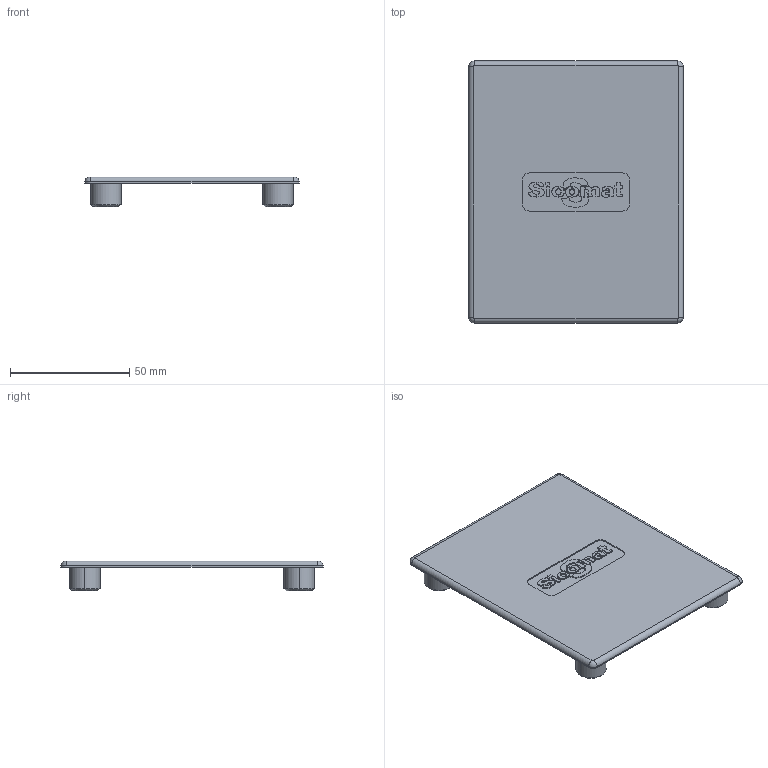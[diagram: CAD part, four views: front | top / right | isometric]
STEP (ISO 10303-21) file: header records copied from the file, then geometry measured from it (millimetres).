
FILE_DESCRIPTION (( 'STEP AP203' ), '1' );
FILE_NAME ('900.400.002.STEP', '2014-09-11T07:44:13', ( '' ), ( '' ), 'SwSTEP 2.0', 'SolidWorks 2012', '' );
FILE_SCHEMA (( 'CONFIG_CONTROL_DESIGN' ));
Length unit declared in the file: millimetre
Products named in the file (1): 900.400.002
Bounding box: 90 x 110 x 12.5 mm (x, y, z)
Volume: 26388.6 mm3; surface area: 23544.7 mm2
Topology: 20 solids, 20 shells, 231 faces, 522 edges, 340 vertices
Faces by surface type: bspline 100, plane 83, cylinder 28, torus 12, cone 8
Entity records: 7019 total; most frequent: CARTESIAN_POINT 2406, ORIENTED_EDGE 1044, DIRECTION 670, EDGE_CURVE 522, VERTEX_POINT 340, EDGE_LOOP 240, VECTOR 238, LINE 238
